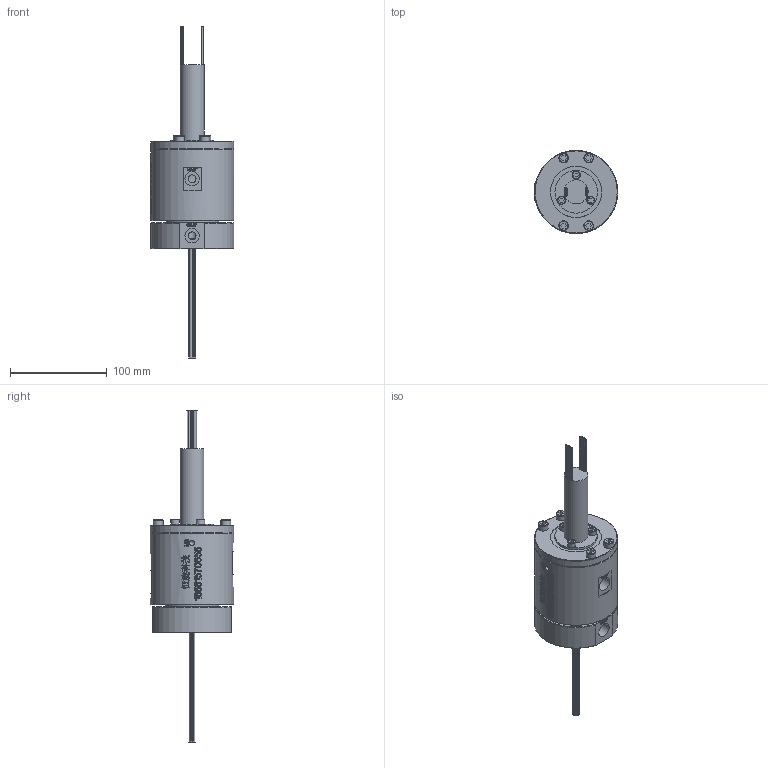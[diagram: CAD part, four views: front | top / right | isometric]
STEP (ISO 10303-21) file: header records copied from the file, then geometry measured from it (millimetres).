
FILE_DESCRIPTION(/* description */ (''),/* implementation_level */ '2;1');
FILE_NAME(/* name */ 'HQ0203-56M-3D模型.stp',/* time_stamp */ '2025-09-02T14:21:44+08:00',/* author */ (''),/* organization */ (''),/* preprocessor_version */ 'ST-DEVELOPER v16.7',/* originating_system */ 'SIEMENS PLM Software NX 12.0',/* authorisation */ '');
FILE_SCHEMA (('AUTOMOTIVE_DESIGN { 1 0 10303 214 3 1 1 1 }'));
Products named in the file (1): Admi48E8F86Cy610
Bounding box: 86.52 x 86 x 343.5 mm (x, y, z)
Volume: 665346.9 mm3; surface area: 92914.8 mm2
Topology: 1 solids, 6 shells, 1569 faces, 4051 edges, 2714 vertices
Faces by surface type: extrusion 730, plane 560, cylinder 183, bspline 58, cone 31, torus 7
Full cylindrical faces by diameter (mm): 0.8 x111, 5 x12, 5.5 x3, 8 x6, 8.5 x3, 9.4 x2, 9.5 x2, 9.9 x1, 10 x4, 15 x4, 17 x1, 24.8 x1, 33 x1, 33.5 x1, 44 x2, 51 x1, 52 x1, 53 x1, 55 x1, 65 x1, 86 x2
Entity records: 55911 total; most frequent: CARTESIAN_POINT 23857, ORIENTED_EDGE 7546, DIRECTION 3866, EDGE_CURVE 3773, B_SPLINE_CURVE_WITH_KNOTS 3449, VERTEX_POINT 2628, EDGE_LOOP 1991, ADVANCED_FACE 1567
